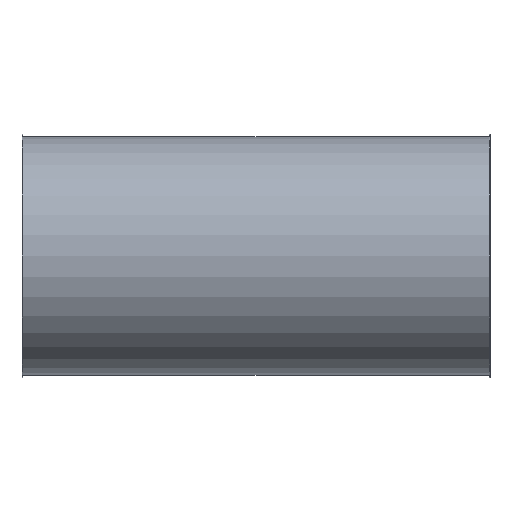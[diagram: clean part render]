
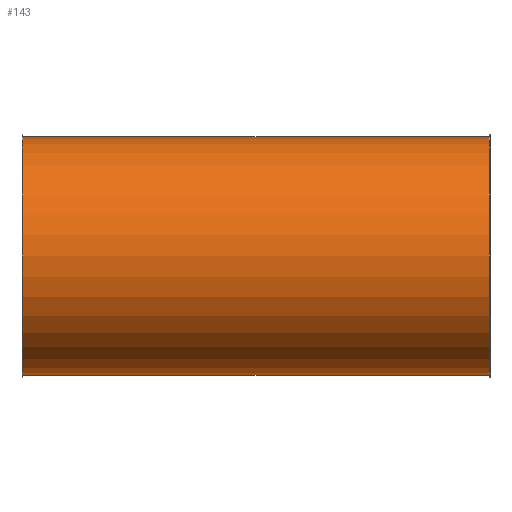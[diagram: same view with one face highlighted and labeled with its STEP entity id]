
A CAD part, front view. The second image highlights one B-rep face of the part: STEP entity #143.
In plain terms, the highlighted cylindrical face has radius 251 mm (diameter 502 mm), a full revolution.
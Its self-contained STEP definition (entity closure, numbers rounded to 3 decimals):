
#112=CARTESIAN_POINT('',(952.119,2.817,0.0));
#113=VERTEX_POINT('',#112);
#114=CARTESIAN_POINT('',(952.119,253.817,0.0));
#115=DIRECTION('',(-1.0,0.0,0.0));
#116=DIRECTION('',(0.0,-1.0,0.0));
#117=AXIS2_PLACEMENT_3D('',#114,#115,#116);
#118=CIRCLE('',#117,251.);
#119=EDGE_CURVE('',#113,#113,#118,.T.);
#124=CARTESIAN_POINT('',(461.119,253.817,0.0));
#125=DIRECTION('',(-1.0,0.,0.0));
#126=DIRECTION('',(0.0,-1.0,0.0));
#127=AXIS2_PLACEMENT_3D('',#124,#125,#126);
#128=CYLINDRICAL_SURFACE('',#127,251.);
#129=CARTESIAN_POINT('',(-29.881,2.817,0.0));
#130=VERTEX_POINT('',#129);
#131=CARTESIAN_POINT('',(-29.881,253.817,0.0));
#132=DIRECTION('',(-1.0,0.0,0.0));
#133=DIRECTION('',(0.0,-1.0,0.0));
#134=AXIS2_PLACEMENT_3D('',#131,#132,#133);
#135=CIRCLE('',#134,251.0);
#136=EDGE_CURVE('',#130,#130,#135,.T.);
#137=ORIENTED_EDGE('',*,*,#136,.F.);
#138=EDGE_LOOP('',(#137));
#139=FACE_OUTER_BOUND('',#138,.T.);
#140=ORIENTED_EDGE('',*,*,#119,.T.);
#141=EDGE_LOOP('',(#140));
#142=FACE_BOUND('',#141,.T.);
#143=ADVANCED_FACE('',(#139,#142),#128,.T.);
